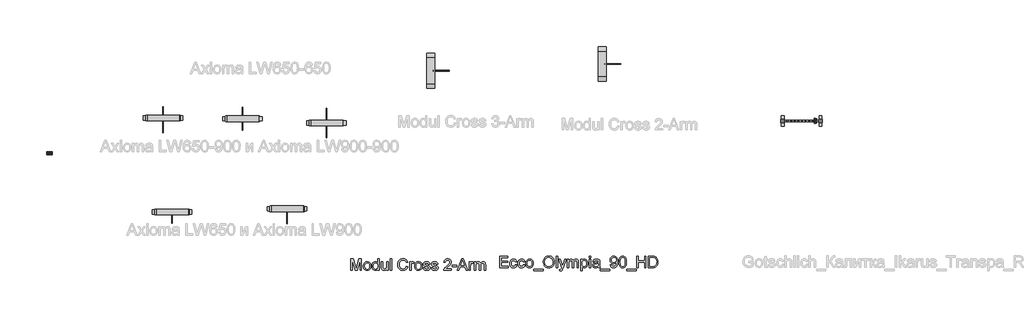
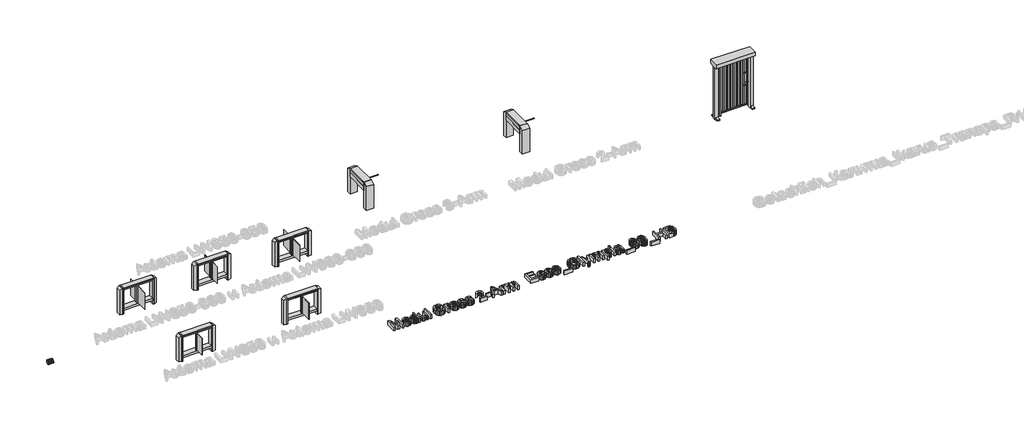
# One storey, part 1 of 6: 12 proxies.
"""IFC4 building model written with IfcOpenShell, lengths in millimetres."""

from ifc_helpers import new_model, si_unit, origin, origin_with_axes, place, context, project, spatial, polyline, outline, extrude, transform, mapped, element, save
from components import mechanical_equipment_a992aaa1, mechanical_equipment_c5705cf6, mechanical_equipment_7de76323, mechanical_equipment_c56998ff, mechanical_equipment_809e9af9, mechanical_equipment_59e46698, mechanical_equipment_12aa2fce, mechanical_equipment_f0adfb8c, modul_cross_2_arm_839a2599, modul_cross_3_arm_643bd08d

model = new_model("IFC4")

# Units and contexts
model_context = context("Model", 3, world=origin())
ifc_project = project(units=[si_unit("LENGTHUNIT", "METRE", prefix="MILLI")], contexts=[model_context])

# Site, building, storey
site = spatial("IfcSite", under=ifc_project)
building = spatial("IfcBuilding", under=site)
storey = spatial("IfcBuildingStorey", under=building, Name="Уровень 1", Elevation=0.0)

# Proxies
placement = place(None, origin())
element("IfcBuildingElementProxy", 1, Name="600 мм Arial", ObjectType="600 мм Arial", at=placement, inside=storey, context=model_context, shape_type="SweptSolid", body=[
    extrude(outline(polyline([(7507.5128013, -1022.3586758), (7507.5128013, -620.5334352), (7796.324693, -620.5334352), (7796.324693, -670.7615903), (7557.7409564, -670.7615903), (7557.7409564, -790.0534586), (7783.7676542, -790.0534586), (7783.7676542, -840.2816137), (7557.7409564, -840.2816137), (7557.7409564, -972.1305208), (7802.6032124, -972.1305208), (7802.6032124, -1022.3586758), (7507.5128013, -1022.3586758)])), origin_with_axes(), (0.0, 0.0, 1.0), 150.0),
    extrude(outline(polyline([(8060.0225071, -915.6238463), (8110.2506622, -921.9023657), (8104.7876146, -945.6031632), (8096.2466209, -966.5755026), (8084.6276812, -984.8193839), (8069.9307955, -1000.334807), (8052.7752318, -1012.7171019), (8033.7802581, -1021.5615982), (8012.9458745, -1026.868296), (7990.2720808, -1028.6371952), (7962.1015171, -1026.1693202), (7936.8433524, -1018.765695), (7914.4975869, -1006.4263198), (7895.0642205, -989.1511944), (7879.3341995, -967.2652814), (7868.0984702, -941.0935431), (7861.3570327, -910.6359796), (7859.1098868, -875.8925908), (7862.9481223, -831.1949284), (7874.4628288, -792.4569543), (7893.8379472, -761.174722), (7921.2574185, -738.8442849), (7954.0602298, -725.4533803), (7989.5853678, -720.9897454), (8011.8698196, -722.522587), (8032.0266873, -727.121112), (8050.0559707, -734.7853202), (8065.95767, -745.5152117), (8079.4620049, -759.0655319), (8090.2991953, -775.191026), (8098.4692413, -793.8916941), (8103.9721428, -815.1675361), (8053.7439877, -821.4460555), (8044.632777, -799.5325513), (8030.4447947, -783.8239902), (8011.9648558, -774.3694229), (7989.9777752, -771.2179005), (7972.9111163, -772.7691362), (7957.5183205, -777.4228434), (7943.7993878, -785.1790222), (7931.7543181, -796.0376724), (7921.9471973, -810.2501801), (7914.942111, -828.0679314), (7910.7390592, -849.4909263), (7909.3380419, -874.5191647), (7914.8194836, -921.5957973), (7921.6712858, -939.5331103), (7931.2638088, -953.736421), (7943.0697552, -964.5306919), (7956.5618273, -972.2408853), (7971.7400253, -976.8670014), (7988.6043491, -978.4090401), (8014.6136062, -974.5585419), (8035.9384992, -963.0070473), (8051.4508566, -943.4602506), (8060.0225071, -915.6238463)])), origin_with_axes(), (0.0, 0.0, 1.0), 150.0),
    extrude(outline(polyline([(8342.5558794, -915.6238463), (8392.7840345, -921.9023657), (8387.3209869, -945.6031632), (8378.7799932, -966.5755026), (8367.1610535, -984.8193839), (8352.4641678, -1000.334807), (8335.3086041, -1012.7171019), (8316.3136304, -1021.5615982), (8295.4792468, -1026.868296), (8272.8054531, -1028.6371952), (8244.6348894, -1026.1693202), (8219.3767247, -1018.765695), (8197.0309592, -1006.4263198), (8177.5975928, -989.1511944), (8161.8675718, -967.2652814), (8150.6318425, -941.0935431), (8143.890405, -910.6359796), (8141.6432591, -875.8925908), (8145.4814946, -831.1949284), (8156.9962011, -792.4569543), (8176.3713195, -761.174722), (8203.7907908, -738.8442849), (8236.5936021, -725.4533803), (8272.1187401, -720.9897454), (8294.4031919, -722.522587), (8314.5600596, -727.121112), (8332.589343, -734.7853202), (8348.4910423, -745.5152117), (8361.9953772, -759.0655319), (8372.8325676, -775.191026), (8381.0026136, -793.8916941), (8386.5055151, -815.1675361), (8336.27736, -821.4460555), (8327.1661493, -799.5325513), (8312.978167, -783.8239902), (8294.4982281, -774.3694229), (8272.5111475, -771.2179005), (8255.4444886, -772.7691362), (8240.0516928, -777.4228434), (8226.3327601, -785.1790222), (8214.2876904, -796.0376724), (8204.4805696, -810.2501801), (8197.4754833, -828.0679314), (8193.2724315, -849.4909263), (8191.8714142, -874.5191647), (8197.3528559, -921.5957973), (8204.2046581, -939.5331103), (8213.7971811, -953.736421), (8225.6031275, -964.5306919), (8239.0951996, -972.2408853), (8254.2733976, -976.8670014), (8271.1377214, -978.4090401), (8297.1469785, -974.5585419), (8318.4718715, -963.0070473), (8333.9842289, -943.4602506), (8342.5558794, -915.6238463)])), origin_with_axes(), (0.0, 0.0, 1.0), 150.0),
    extrude(outline(polyline([(8424.1766314, -874.8134703), (8426.8928268, -836.5966624), (8435.041413, -803.6650924), (8448.62239, -776.0187605), (8467.6357578, -753.6576665), (8486.7778843, -739.365451), (8507.9065735, -729.1567257), (8531.0218255, -723.0314905), (8556.1236404, -720.9897454), (8583.8343516, -723.4760145), (8608.8901812, -730.934822), (8631.291129, -743.3661677), (8651.0371951, -760.7700518), (8667.1534922, -782.557863), (8678.6651329, -808.14099), (8685.5721174, -837.519433), (8687.8744456, -870.6931919), (8683.8032181, -921.4363818), (8671.5895359, -960.0639913), (8651.5890181, -988.9917789), (8624.157284, -1010.6355029), (8591.575202, -1024.1367721), (8556.1236404, -1028.6371952), (8528.0082589, -1026.1601231), (8502.7194374, -1018.7289068), (8480.2571759, -1006.3435463), (8460.6214744, -989.0040416), (8444.6768556, -967.0046983), (8433.2878422, -940.639822), (8426.4544341, -909.9094126), (8424.1766314, -874.8134703)]), holes=[polyline([(8474.4047865, -874.7153684), (8475.8579204, -899.0783536), (8480.217322, -920.1733203), (8487.4829914, -938.0002686), (8497.6549286, -952.5591986), (8510.0280264, -963.8685043), (8523.8971776, -971.9465798), (8539.2623822, -976.793425), (8556.1236404, -978.4090401), (8572.8990593, -976.784228), (8588.2029503, -971.9097916), (8602.0353134, -963.7857308), (8614.3961484, -952.4120458), (8624.5680856, -937.7090287), (8631.833755, -919.5969718), (8636.1931566, -898.0758751), (8637.6462905, -873.1457386), (8636.1839596, -849.5553056), (8631.7969668, -829.0121619), (8624.4853121, -811.5163073), (8614.2489956, -797.067742), (8601.8421753, -785.7584363), (8588.0190093, -777.6803608), (8572.7794977, -772.8335155), (8556.1236404, -771.2179005), (8539.2623822, -772.8273842), (8523.8971776, -777.6558354), (8510.0280264, -785.703254), (8497.6549286, -796.9696401), (8487.4829914, -811.4856505), (8480.217322, -829.281942), (8475.8579204, -850.3585147), (8474.4047865, -874.7153684)])]), origin_with_axes(), (0.0, 0.0, 1.0), 150.0),
    extrude(outline(polyline([(8700.4314843, -1135.3720247), (8700.4314843, -1085.1438697), (9026.9144923, -1085.1438697), (9026.9144923, -1135.3720247), (8700.4314843, -1135.3720247)])), origin_with_axes(), (0.0, 0.0, 1.0), 150.0),
    extrude(outline(polyline([(9039.4715311, -826.7435563), (9042.8192572, -779.6117413), (9052.8624357, -737.8877917), (9069.6010665, -701.5717074), (9093.0351496, -670.6634884), (9121.760602, -645.9847379), (9154.3733409, -628.357059), (9190.8733662, -617.7804516), (9231.2606779, -614.2549158), (9258.2938732, -615.9103848), (9283.9659051, -620.8767918), (9308.2767736, -629.1541366), (9331.2264787, -640.7424195), (9352.171227, -655.2921524), (9370.4672249, -672.4538475), (9386.1144724, -692.2275047), (9399.1129696, -714.6131241), (9409.3278263, -739.1018023), (9416.6241525, -765.1846357), (9422.4612135, -822.1327686), (9420.9253062, -851.7901888), (9416.3175842, -879.8411909), (9408.6380476, -906.285775), (9397.8866963, -931.123941), (9384.317982, -953.6996328), (9368.1863565, -973.3567941), (9349.4918198, -990.0954248), (9328.2343718, -1003.9155251), (9305.2509442, -1014.7312558), (9281.3784684, -1022.4567777), (9256.6169444, -1027.0920908), (9230.9663723, -1028.6371952), (9203.4610618, -1026.9296096), (9177.4518047, -1021.8068528), (9152.9386011, -1013.2689249), (9129.921451, -1001.3158257), (9109.0012282, -986.4104735), (9090.7788067, -969.0157865), (9075.2541865, -949.1317647), (9062.4273676, -926.758408), (9045.2104902, -878.136671), (9039.4715311, -826.7435563)]), holes=[polyline([(9089.6996862, -827.2340656), (9092.2104808, -860.5335175), (9099.7428646, -890.0928358), (9112.2968377, -915.9120205), (9129.8724, -937.9910716), (9151.2371469, -955.6739328), (9175.1586736, -968.304548), (9201.6369802, -975.8829171), (9230.6720667, -978.4090401), (9260.2037939, -975.8583916), (9286.9948002, -968.2064461), (9311.0450856, -955.4532036), (9332.3546502, -937.5986641), (9349.8014538, -915.0536292), (9362.2634564, -888.2289004), (9369.7406579, -857.1244777), (9372.2330585, -821.7403611), (9367.9656273, -777.2756906), (9355.1633339, -738.8442849), (9334.157272, -707.4148998), (9305.2785353, -683.9562912), (9270.4401104, -669.351376), (9231.5549835, -664.4830709), (9203.5285068, -666.8283186), (9177.5253811, -673.8640618), (9153.5456064, -685.5903004), (9131.5891827, -702.0070344), (9113.2625279, -723.9052102), (9100.1720603, -752.075774), (9092.3177797, -786.5187258), (9089.6996862, -827.2340656)])]), origin_with_axes(), (0.0, 0.0, 1.0), 150.0),
    extrude(outline(polyline([(9485.2464074, -1022.3586758), (9485.2464074, -620.5334352), (9535.4745624, -620.5334352), (9535.4745624, -1022.3586758), (9485.2464074, -1022.3586758)])), origin_with_axes(), (0.0, 0.0, 1.0), 150.0),
    extrude(outline(polyline([(9610.8167951, -1135.3720247), (9604.5382757, -1087.0078051), (9630.0447607, -1091.4223891), (9643.4601908, -1090.0367002), (9653.883514, -1085.8796337), (9668.5006919, -1070.4285899), (9682.2349531, -1033.4441866), (9686.1590277, -1021.2795553), (9579.4241981, -727.2682648), (9632.3992054, -727.2682648), (9689.0039818, -891.0983799), (9708.7224567, -956.630426), (9728.4409317, -898.7503254), (9786.6153378, -727.2682648), (9839.1979377, -727.2682648), (9736.4852846, -1029.4220101), (9709.8015772, -1094.9540562), (9696.1408925, -1115.874279), (9680.6653232, -1130.3688296), (9662.6881564, -1138.8301155), (9641.5226789, -1141.6505441), (9610.8167951, -1135.3720247)])), origin_with_axes(), (0.0, 0.0, 1.0), 150.0),
    extrude(outline(polyline([(9880.7931286, -1022.3586758), (9880.7931286, -727.2682648), (9931.0212837, -727.2682648), (9931.0212837, -775.8286881), (9946.1289709, -753.5227765), (9965.5531403, -736.0483817), (9988.6316041, -724.7544045), (10014.7021748, -720.9897454), (10042.636681, -724.8279809), (10065.0284318, -736.3426873), (10081.7547998, -754.7735753), (10092.6931578, -779.3603553), (10111.0014184, -753.8232134), (10131.884853, -735.5823979), (10155.3434616, -724.6379085), (10181.3772441, -720.9897454), (10201.4850608, -722.5072586), (10219.1341996, -727.0597983), (10234.3246603, -734.6473644), (10247.056443, -745.2699571), (10257.1210812, -759.0502035), (10264.3101086, -776.110731), (10268.623525, -796.4515396), (10270.0613304, -820.0726294), (10270.0613304, -1022.3586758), (10219.8331753, -1022.3586758), (10219.8331753, -841.6550398), (10218.6682157, -816.6022759), (10215.1733367, -799.7164923), (10208.6250372, -788.152735), (10198.2998159, -779.0660497), (10185.0192759, -773.1799378), (10169.6050203, -771.2179005), (10142.3940154, -776.2456211), (10120.210731, -791.3287829), (10111.605358, -802.8986716), (10105.458663, -817.4974554), (10100.541307, -855.7817084), (10100.541307, -1022.3586758), (10050.313152, -1022.3586758), (10050.313152, -836.0632335), (10047.4068842, -807.6627434), (10038.6880809, -787.4047082), (10023.3474017, -775.2646024), (10000.5755062, -771.2179005), (9981.2249133, -773.9157017), (9963.3948992, -782.0091056), (9948.6796194, -795.3019084), (9938.6732292, -813.5979063), (9932.93427, -838.981764), (9931.0212837, -873.538146), (9931.0212837, -1022.3586758), (9880.7931286, -1022.3586758)])), origin_with_axes(), (0.0, 0.0, 1.0), 150.0),
    extrude(outline(polyline([(10345.403563, -1135.3720247), (10345.403563, -727.2682648), (10395.6317181, -727.2682648), (10395.6317181, -776.5154012), (10412.0147296, -752.2229268), (10430.3597784, -734.8711593), (10451.7459851, -724.4600989), (10477.2524701, -720.9897454), (10511.220241, -725.8457877), (10540.9205807, -740.4139147), (10565.1026905, -763.8112096), (10582.5157717, -795.1547556), (10593.0371967, -832.1636843), (10596.5443384, -872.5571274), (10592.5834756, -915.5134817), (10580.7008871, -953.9326247), (10561.2767178, -985.8647819), (10534.6911123, -1009.3601787), (10503.727711, -1023.8179411), (10471.1701544, -1028.6371952), (10448.0794279, -1025.4120964), (10427.4657734, -1015.7367999), (10409.8197004, -1001.1318847), (10395.6317181, -983.1179297), (10395.6317181, -1135.3720247), (10345.403563, -1135.3720247)]), holes=[polyline([(10395.6317181, -877.1679151), (10401.0641089, -922.1966713), (10407.8545974, -939.6342778), (10417.3612813, -953.6873701), (10441.408501, -972.2286226), (10455.1703533, -976.8639358), (10470.0910339, -978.4090401), (10485.2263123, -976.8087535), (10499.2395507, -972.0078934), (10512.1307489, -964.00646), (10523.8999071, -952.8044533), (10533.7070279, -938.2424576), (10540.7121143, -920.1610576), (10544.9151661, -898.5602531), (10546.3161833, -873.4400442), (10540.8470043, -828.6565426), (10534.0105306, -811.084046), (10524.4394673, -796.7243855), (10500.4290358, -777.5945217), (10486.8235333, -772.8120558), (10472.1511731, -771.2179005), (10457.5247981, -772.9132233), (10443.7629458, -777.9991919), (10418.8328093, -798.3430662), (10408.6823319, -813.4415564), (10401.4319909, -831.6118613), (10397.0817863, -852.8539809), (10395.6317181, -877.1679151)])]), origin_with_axes(), (0.0, 0.0, 1.0), 150.0),
    extrude(outline(polyline([(10653.0510129, -670.7615903), (10653.0510129, -620.5334352), (10703.2791679, -620.5334352), (10703.2791679, -670.7615903), (10653.0510129, -670.7615903)])), origin_with_axes(), (0.0, 0.0, 1.0), 150.0),
    extrude(outline(polyline([(10653.0510129, -1022.3586758), (10653.0510129, -727.2682648), (10703.2791679, -727.2682648), (10703.2791679, -1022.3586758), (10653.0510129, -1022.3586758)])), origin_with_axes(), (0.0, 0.0, 1.0), 150.0),
    extrude(outline(polyline([(10966.9769821, -984.6875595), (10942.9788133, -1005.2644258), (10918.2694059, -1018.7289068), (10892.2846743, -1026.1601231), (10864.4605328, -1028.6371952), (10842.0963731, -1027.1472731), (10822.4851971, -1022.6775069), (10805.6270047, -1015.2278965), (10791.5217958, -1004.7984419), (10780.3841684, -992.0513308), (10772.4287203, -977.6487507), (10767.6554514, -961.5907016), (10766.0643618, -943.8771835), (10768.4678575, -923.0550626), (10775.6783446, -904.145928), (10786.8006436, -887.9591203), (10800.9395749, -875.3039796), (10817.5555784, -865.7390477), (10836.1090937, -858.8228662), (10879.56822, -851.2690226), (10930.9245466, -843.3227715), (10966.6826765, -834.0030943), (10966.9769821, -822.8194816), (10963.5188913, -800.4032054), (10953.1446191, -785.7369765), (10929.9435279, -774.8476695), (10897.6189633, -771.2179005), (10867.6978943, -773.6336589), (10846.802197, -780.8809342), (10832.552901, -794.2841015), (10822.5710362, -815.1675361), (10772.3428812, -808.8890168), (10781.0616844, -781.4204945), (10794.0724443, -759.8380841), (10812.5891714, -743.3324452), (10837.8258763, -731.0942375), (10868.6911757, -723.5158684), (10904.0936864, -720.9897454), (10938.0491945, -723.2215628), (10964.9658938, -729.9170151), (10985.2607172, -739.9847191), (10999.3505977, -752.3332914), (11008.6948003, -767.6003942), (11014.7525905, -786.4236896), (11017.2051372, -830.3733253), (11017.2051372, -892.8642135), (11019.7557857, -980.1258228), (11029.7621759, -1022.3586758), (10979.5340208, -1022.3586758), (10971.4896679, -1004.8965438), (10966.9769821, -984.6875595)]), holes=[polyline([(10966.9769821, -884.2312494), (10933.2299404, -892.5944334), (10885.9448413, -899.6332422), (10842.7309696, -907.7756971), (10831.4860433, -913.3429779), (10823.1596474, -921.0194489), (10818.0092995, -930.2164988), (10816.2925169, -940.3455164), (10820.0326505, -955.2815254), (10831.2530513, -967.5197331), (10849.7084647, -975.6867134), (10875.1536361, -978.4090401), (10902.1316491, -975.4046705), (10925.9704023, -966.3915616), (10945.2964698, -953.1110216), (10958.7364254, -937.3043585), (10964.6961137, -921.0194489), (10966.6826765, -898.4560199), (10966.9769821, -884.2312494)])]), origin_with_axes(), (0.0, 0.0, 1.0), 150.0),
    extrude(outline(polyline([(11042.3192147, -1135.3720247), (11042.3192147, -1085.1438697), (11368.8022227, -1085.1438697), (11368.8022227, -1135.3720247), (11042.3192147, -1135.3720247)])), origin_with_axes(), (0.0, 0.0, 1.0), 150.0),
    extrude(outline(polyline([(11387.6377808, -921.9023657), (11437.8659359, -915.6238463), (11446.4498491, -944.1347009), (11460.4293649, -963.5466075), (11479.4611268, -974.693432), (11503.2017782, -978.4090401), (11524.5021458, -976.0178072), (11543.8650014, -968.8441083), (11559.9537074, -957.6727583), (11571.4316256, -943.2885723), (11587.8636881, -899.6332422), (11593.3083416, -871.2327522), (11595.1232261, -841.3607342), (11594.8289205, -831.5505477), (11577.4281021, -852.7896015), (11554.6562066, -869.6140714), (11528.1564403, -880.5769549), (11499.5720092, -884.2312494), (11475.7117962, -881.9994319), (11453.7707008, -875.3039796), (11433.7487232, -864.1448924), (11415.6458634, -848.5221704), (11400.645475, -829.2512852), (11389.9309119, -807.1477086), (11383.5021741, -782.2114407), (11381.3592614, -754.4424815), (11383.6064073, -725.7476858), (11390.3478449, -699.9959462), (11401.5835741, -677.1872625), (11417.3135951, -657.3216347), (11436.4281304, -641.2267975), (11457.8174028, -629.7304851), (11481.4814121, -622.8326977), (11507.4201585, -620.5334352), (11544.8828083, -625.781885), (11578.9854693, -641.5272344), (11607.5085866, -666.9846685), (11628.2326057, -701.3693723), (11640.8509581, -748.8997261), (11645.0570756, -813.79411), (11640.8632208, -882.6003059), (11628.2816566, -935.7837796), (11607.4227475, -975.748027), (11593.9306753, -991.6742517), (11578.3968581, -1004.8965438), (11561.1339954, -1015.2830788), (11542.4547871, -1022.7020324), (11500.8473335, -1028.6371952), (11478.2900358, -1026.8866901), (11457.9032419, -1021.6351746), (11439.6869518, -1012.8826488), (11423.6411654, -1000.6291126), (11410.170553, -985.20566), (11399.6797848, -966.9433846), (11392.1688607, -945.8422865), (11387.6377808, -921.9023657)]), holes=[polyline([(11594.8289205, -753.2652591), (11589.4087925, -719.2239118), (11582.6336324, -705.1462941), (11573.1484083, -693.0307137), (11561.419104, -683.2879722), (11547.9117034, -676.3288712), (11515.5626133, -670.7615903), (11497.9533285, -672.2607094), (11482.0117753, -676.7580668), (11467.7379539, -684.2536625), (11455.1318642, -694.7474964), (11444.8311683, -707.6264319), (11437.4735284, -722.2773324), (11433.0589445, -738.7001978), (11431.5874165, -756.8950281), (11437.1546974, -787.9320058), (11444.1137985, -801.0500646), (11453.85654, -812.5678367), (11465.9782517, -821.9457619), (11480.0742635, -828.6442799), (11514.1891872, -834.0030943), (11546.2807599, -828.6442799), (11572.1183387, -812.5678367), (11582.0542182, -800.823204), (11589.1512751, -787.0245635), (11594.8289205, -753.2652591)])]), origin_with_axes(), (0.0, 0.0, 1.0), 150.0),
    extrude(outline(polyline([(11689.0067113, -824.6834171), (11692.697794, -760.3653816), (11703.771042, -709.0703687), (11722.1160908, -670.0135636), (11733.9741538, -654.7801833), (11747.6225758, -642.4101512), (11763.1073422, -632.839088), (11780.474438, -626.0026142), (11820.8556184, -620.5334352), (11851.8067569, -623.7707968), (11879.5205338, -633.4828815), (11902.6970995, -649.2895445), (11920.0366043, -670.8106412), (11933.1332033, -697.8622306), (11943.5810519, -730.2603717), (11950.4236571, -771.4018414), (11952.7045254, -824.6834171), (11949.0502309, -888.6335706), (11938.0873475, -939.8059561), (11919.8526633, -978.8995495), (11908.0221914, -994.178915), (11894.3829665, -1006.6133264), (11878.879806, -1016.248769), (11861.4575279, -1023.131228), (11820.8556184, -1028.6371952), (11793.1908923, -1026.2459622), (11768.665426, -1019.0722633), (11747.2792193, -1007.1160985), (11729.0322724, -990.3774677), (11711.5210894, -960.1191736), (11699.0131015, -922.4174005), (11691.5083088, -877.2721483), (11689.0067113, -824.6834171)]), holes=[polyline([(11739.2348664, -824.5853152), (11740.7063943, -868.2498424), (11745.1209783, -903.594105), (11752.4786182, -930.6181033), (11762.779314, -949.3218371), (11775.2382509, -962.0474884), (11789.070614, -971.1372394), (11804.2764031, -976.5910899), (11820.8556184, -978.4090401), (11837.4348336, -976.5849586), (11852.6406227, -971.1127139), (11866.4729858, -961.9923061), (11878.9319227, -949.2237352), (11889.2326185, -930.4893446), (11896.5902584, -903.4714777), (11901.0048424, -868.1701346), (11902.4763703, -824.5853152), (11901.0538933, -782.0765507), (11896.7864622, -747.3546217), (11889.6740769, -720.4195283), (11879.7167376, -701.2712704), (11867.4662671, -687.9232854), (11853.4744886, -678.3890103), (11837.7414019, -672.6684453), (11820.2670072, -670.7615903), (11803.773631, -672.4415847), (11788.8253593, -677.4815681), (11775.4221919, -685.8815403), (11763.564129, -697.6415014), (11752.9200766, -718.4881478), (11745.317182, -746.5943322), (11740.7554453, -781.9600547), (11739.2348664, -824.5853152)])]), origin_with_axes(), (0.0, 0.0, 1.0), 150.0),
    extrude(outline(polyline([(11965.2615642, -1135.3720247), (11965.2615642, -1085.1438697), (12291.7445722, -1085.1438697), (12291.7445722, -1135.3720247), (11965.2615642, -1135.3720247)])), origin_with_axes(), (0.0, 0.0, 1.0), 150.0),
    extrude(outline(polyline([(12323.1371691, -1022.3586758), (12323.1371691, -620.5334352), (12373.3653242, -620.5334352), (12373.3653242, -783.7749392), (12586.8349832, -783.7749392), (12586.8349832, -620.5334352), (12637.0631383, -620.5334352), (12637.0631383, -1022.3586758), (12586.8349832, -1022.3586758), (12586.8349832, -834.0030943), (12373.3653242, -834.0030943), (12373.3653242, -1022.3586758), (12323.1371691, -1022.3586758)])), origin_with_axes(), (0.0, 0.0, 1.0), 150.0),
    extrude(outline(polyline([(12724.9624097, -1022.3586758), (12724.9624097, -620.5334352), (12863.5803455, -620.5334352), (12905.0038581, -621.9804377), (12935.2928091, -626.3214453), (12967.3230681, -637.4805325), (12994.350132, -655.0652918), (13022.1374854, -685.6730738), (13041.9295367, -723.7365976), (13053.775337, -768.5200992), (13057.7239371, -819.2878145), (13055.0506612, -862.4158471), (13047.0308337, -900.3690062), (13034.8171515, -932.6813081), (13019.5623114, -958.8867689), (13002.0020775, -979.5739998), (12982.8722138, -995.3316119), (12960.9096587, -1007.0179966), (12934.8513507, -1015.4915452), (12904.6482389, -1020.6418932), (12870.2512723, -1022.3586758), (12724.9624097, -1022.3586758)]), holes=[polyline([(12775.1905648, -972.1305208), (12864.0708548, -972.1305208), (12900.8345289, -970.3156362), (12928.7199841, -964.8709827), (12949.7628342, -956.1153912), (12965.9986929, -944.3676928), (12983.4485622, -922.6258669), (12996.557424, -894.4828943), (13004.7611925, -859.8161476), (13007.495782, -818.5029996), (13002.1369676, -763.7621587), (12995.4384496, -741.7628154), (12986.0605244, -723.3441901), (12962.3076103, -695.5813622), (12933.919383, -678.8059433), (12905.0283836, -672.7726785), (12862.6974287, -670.7615903), (12775.1905648, -670.7615903), (12775.1905648, -972.1305208)])]), origin_with_axes(), (0.0, 0.0, 1.0), 150.0),
])
element("IfcBuildingElementProxy", 2, Name="600 мм Arial", ObjectType="600 мм Arial", at=placement, inside=storey, context=model_context, shape_type="SweptSolid", body=[
    extrude(outline(polyline([(2288.7167583, -1115.0438908), (2288.7167583, -713.2186502), (2375.1445017, -713.2186502), (2457.3538649, -996.4387356), (2473.9330802, -1055.5941604), (2491.8857215, -991.5336423), (2572.7216586, -713.2186502), (2659.149402, -713.2186502), (2659.149402, -1115.0438908), (2608.9212469, -1115.0438908), (2608.9212469, -763.4468053), (2507.9744275, -1115.0438908), (2439.8917329, -1115.0438908), (2338.9449134, -763.4468053), (2338.9449134, -1115.0438908), (2288.7167583, -1115.0438908)])), origin_with_axes(), (0.0, 0.0, 1.0), 150.0),
    extrude(outline(polyline([(2728.2131152, -967.4986853), (2730.9293106, -929.2818774), (2739.0778968, -896.3503074), (2752.6588738, -868.7039755), (2771.6722416, -846.3428816), (2790.8143681, -832.0506661), (2811.9430573, -821.8419407), (2835.0583094, -815.7167055), (2860.1601242, -813.6749604), (2887.8708355, -816.1612295), (2912.926665, -823.620037), (2935.3276128, -836.0513828), (2955.0736789, -853.4552668), (2971.189976, -875.243078), (2982.7016168, -900.8262051), (2989.6086012, -930.2046481), (2991.9109294, -963.378407), (2987.839702, -1014.1215968), (2975.6260197, -1052.7492063), (2955.6255019, -1081.6769939), (2928.1937678, -1103.3207179), (2895.6116858, -1116.8219872), (2860.1601242, -1121.3224102), (2832.0447427, -1118.8453381), (2806.7559212, -1111.4141218), (2784.2936597, -1099.0287613), (2764.6579582, -1081.6892566), (2748.7133394, -1059.6899133), (2737.324326, -1033.325037), (2730.4909179, -1002.5946277), (2728.2131152, -967.4986853)]), holes=[polyline([(2778.4412703, -967.4005834), (2779.8944042, -991.7635686), (2784.2538058, -1012.8585353), (2791.5194752, -1030.6854837), (2801.6914124, -1045.2444136), (2814.0645102, -1056.5537193), (2827.9336614, -1064.6317948), (2843.2988661, -1069.4786401), (2860.1601242, -1071.0942552), (2876.9355432, -1069.469443), (2892.2394342, -1064.5950066), (2906.0717972, -1056.4709458), (2918.4326322, -1045.0972608), (2928.6045694, -1030.3942438), (2935.8702388, -1012.2821869), (2940.2296404, -990.7610901), (2941.6827743, -965.8309536), (2940.2204434, -942.2405207), (2935.8334506, -921.6973769), (2928.5217959, -904.2015224), (2918.2854794, -889.752957), (2905.8786591, -878.4436513), (2892.0554932, -870.3655759), (2876.8159815, -865.5187306), (2860.1601242, -863.9031155), (2843.2988661, -865.5125992), (2827.9336614, -870.3410504), (2814.0645102, -878.388469), (2801.6914124, -889.6548551), (2791.5194752, -904.1708655), (2784.2538058, -921.967157), (2779.8944042, -943.0437297), (2778.4412703, -967.4005834)])]), origin_with_axes(), (0.0, 0.0, 1.0), 150.0),
    extrude(outline(polyline([(3230.494666, -1115.0438908), (3230.494666, -1067.6606899), (3215.4666865, -1091.1376925), (3197.2626591, -1107.9069801), (3175.8825838, -1117.9685527), (3151.3264606, -1121.3224102), (3118.8547432, -1116.4663679), (3089.129878, -1101.8982409), (3063.9667495, -1078.6358361), (3045.1802423, -1047.6969603), (3033.4815948, -1010.3324123), (3029.5820457, -967.7929909), (3033.1750265, -925.7808671), (3043.953969, -887.8399706), (3061.9066103, -856.1285426), (3087.0206879, -832.8048241), (3117.3954779, -818.4574263), (3151.1302569, -813.6749604), (3175.7047742, -817.096263), (3197.4343374, -827.3601706), (3215.8529626, -843.0932573), (3230.494666, -862.9220968), (3230.494666, -713.2186502), (3280.7228211, -713.2186502), (3280.7228211, -1115.0438908), (3230.494666, -1115.0438908)]), holes=[polyline([(3079.8102008, -967.5967872), (3081.2265464, -991.9536409), (3085.4755835, -1013.0302136), (3092.5573119, -1030.8265051), (3102.4717317, -1045.3425155), (3127.1688763, -1064.6563202), (3141.0441589, -1069.4847714), (3155.9372483, -1071.0942552), (3170.9008485, -1069.5583478), (3184.6933576, -1064.9506258), (3208.7651028, -1046.5197379), (3218.2717867, -1032.6107328), (3225.0622752, -1015.4582347), (3230.494666, -971.4227599), (3224.9641733, -923.2792695), (3218.0510575, -904.7441483), (3208.3726953, -889.9001098), (3196.6709822, -878.5264248), (3183.6878135, -870.4023641), (3169.4231891, -865.5279276), (3153.8771091, -863.9031155), (3138.6897141, -865.4635483), (3124.8144315, -870.1448467), (3112.2512614, -877.9470106), (3101.0002037, -888.8700402), (3091.7295774, -903.1530587), (3085.1077015, -921.0351893), (3079.8102008, -967.5967872)])]), origin_with_axes(), (0.0, 0.0, 1.0), 150.0),
    extrude(outline(polyline([(3544.4206352, -1115.0438908), (3544.4206352, -1064.3252264), (3526.2472646, -1089.2614943), (3505.0817872, -1107.0731143), (3480.9242028, -1117.7600862), (3453.7745116, -1121.3224102), (3429.3103589, -1118.8208127), (3406.5384634, -1111.31602), (3387.4331251, -1100.0343054), (3373.9686441, -1086.2019424), (3364.9064843, -1069.401998), (3359.0081096, -1049.2175392), (3356.0650537, -1002.5210513), (3356.0650537, -819.9534798), (3406.2932088, -819.9534798), (3406.2932088, -978.8785017), (3409.3343666, -1030.0876754), (3416.6552183, -1047.1696627), (3429.1999943, -1060.1558972), (3446.1348288, -1068.3596657), (3466.625856, -1071.0942552), (3488.2941055, -1068.298352), (3508.5644034, -1059.9106425), (3525.2785087, -1046.7036789), (3536.2781804, -1029.4500133), (3542.3850215, -1005.8197265), (3544.4206352, -973.4828991), (3544.4206352, -819.9534798), (3594.6487903, -819.9534798), (3594.6487903, -1115.0438908), (3544.4206352, -1115.0438908)])), origin_with_axes(), (0.0, 0.0, 1.0), 150.0),
    extrude(outline(polyline([(3663.7125035, -1115.0438908), (3663.7125035, -713.2186502), (3713.9406586, -713.2186502), (3713.9406586, -1115.0438908), (3663.7125035, -1115.0438908)])), origin_with_axes(), (0.0, 0.0, 1.0), 150.0),
    extrude(outline(polyline([(4235.0577675, -972.2075749), (4285.2859226, -985.1570211), (4275.3469773, -1016.3932682), (4262.1093569, -1043.6870465), (4245.5730612, -1067.0383562), (4225.7380903, -1086.4471971), (4203.0520339, -1101.7051028), (4177.9624818, -1112.6036069), (4150.4694341, -1119.1427094), (4120.5728906, -1121.3224102), (4089.9436488, -1119.6730726), (4062.3126453, -1114.7250598), (4037.67988, -1106.4783717), (4016.045353, -1094.9330084), (3997.111693, -1080.2606482), (3980.5815287, -1062.6329693), (3966.4548601, -1042.0499716), (3954.7316872, -1018.5116553), (3938.9495496, -966.640294), (3933.688837, -911.0901127), (3939.6362626, -852.4987736), (3947.0705446, -826.2013423), (3957.4785394, -801.9027365), (3970.627255, -780.0045608), (3986.2836996, -760.9084196), (4004.4478731, -744.6143129), (4025.1197756, -731.1222407), (4047.5973655, -720.5425676), (4071.1786014, -712.9856583), (4121.6520111, -706.9401309), (4150.3805292, -708.8960368), (4176.7239458, -714.7637546), (4200.6822607, -724.5432843), (4222.2554741, -738.2346259), (4241.0879665, -755.4760288), (4256.8241189, -775.9057422), (4269.4639311, -799.5237663), (4279.0074032, -826.330101), (4228.7792481, -838.2985286), (4211.366167, -801.6697446), (4187.5764646, -776.5434043), (4157.1158354, -762.0120655), (4119.6899738, -757.1682859), (4076.5496785, -762.5393631), (4057.8674045, -769.2532095), (4041.1103796, -778.6525945), (4014.2182058, -803.8157229), (3996.7192855, -836.3364913), (3987.1175655, -873.1001653), (3983.9169921, -910.9920109), (3987.7061767, -957.3941932), (3999.0737303, -997.5178561), (4018.4488487, -1029.830158), (4046.2607276, -1052.7982573), (4079.6030991, -1066.5202557), (4115.5696955, -1071.0942552), (4137.4065575, -1069.536888), (4157.4959802, -1064.8647867), (4175.8379633, -1057.0779511), (4192.432507, -1046.1763813), (4206.8872037, -1032.2091283), (4218.809646, -1015.2252428), (4228.199834, -995.224725), (4235.0577675, -972.2075749)])), origin_with_axes(), (0.0, 0.0, 1.0), 150.0),
    extrude(outline(polyline([(4348.0711164, -1115.0438908), (4348.0711164, -819.9534798), (4392.0207521, -819.9534798), (4392.0207521, -863.6088099), (4408.2566108, -838.2985286), (4423.2171453, -823.3870451), (4438.2267307, -816.1029816), (4454.6097422, -813.6749604), (4479.6257179, -817.5499841), (4505.034101, -829.1750551), (4488.258682, -874.2038113), (4470.6003463, -866.4782894), (4452.9420105, -863.9031155), (4437.9446878, -866.3801876), (4424.5415205, -873.8114039), (4413.7135271, -885.6326787), (4406.4417263, -901.2799262), (4400.3348852, -929.3370597), (4398.2992715, -959.9448417), (4398.2992715, -1115.0438908), (4348.0711164, -1115.0438908)])), origin_with_axes(), (0.0, 0.0, 1.0), 150.0),
    extrude(outline(polyline([(4523.8696592, -967.4986853), (4526.5858546, -929.2818774), (4534.7344408, -896.3503074), (4548.3154177, -868.7039755), (4567.3287855, -846.3428816), (4586.470912, -832.0506661), (4607.5996013, -821.8419407), (4630.7148533, -815.7167055), (4655.8166681, -813.6749604), (4683.5273794, -816.1612295), (4708.5832089, -823.620037), (4730.9841568, -836.0513828), (4750.7302229, -853.4552668), (4766.8465199, -875.243078), (4778.3581607, -900.8262051), (4785.2651452, -930.2046481), (4787.5674733, -963.378407), (4783.4962459, -1014.1215968), (4771.2825637, -1052.7492063), (4751.2820459, -1081.6769939), (4723.8503117, -1103.3207179), (4691.2682297, -1116.8219872), (4655.8166681, -1121.3224102), (4627.7012866, -1118.8453381), (4602.4124651, -1111.4141218), (4579.9502036, -1099.0287613), (4560.3145022, -1081.6892566), (4544.3698833, -1059.6899133), (4532.9808699, -1033.325037), (4526.1474619, -1002.5946277), (4523.8696592, -967.4986853)]), holes=[polyline([(4574.0978142, -967.4005834), (4575.5509481, -991.7635686), (4579.9103498, -1012.8585353), (4587.1760192, -1030.6854837), (4597.3479563, -1045.2444136), (4609.7210541, -1056.5537193), (4623.5902053, -1064.6317948), (4638.95541, -1069.4786401), (4655.8166681, -1071.0942552), (4672.5920871, -1069.469443), (4687.8959781, -1064.5950066), (4701.7283411, -1056.4709458), (4714.0891761, -1045.0972608), (4724.2611133, -1030.3942438), (4731.5267827, -1012.2821869), (4735.8861844, -990.7610901), (4737.3393182, -965.8309536), (4735.8769873, -942.2405207), (4731.4899945, -921.6973769), (4724.1783399, -904.2015224), (4713.9420233, -889.752957), (4701.5352031, -878.4436513), (4687.7120371, -870.3655759), (4672.4725254, -865.5187306), (4655.8166681, -863.9031155), (4638.95541, -865.5125992), (4623.5902053, -870.3410504), (4609.7210541, -878.388469), (4597.3479563, -889.6548551), (4587.1760192, -904.1708655), (4579.9103498, -921.967157), (4575.5509481, -943.0437297), (4574.0978142, -967.4005834)])]), origin_with_axes(), (0.0, 0.0, 1.0), 150.0),
    extrude(outline(polyline([(4825.2385896, -1027.1446195), (4875.4667447, -1020.8661001), (4883.3884703, -1042.3504086), (4898.7168868, -1058.1448089), (4921.550096, -1067.8568936), (4951.9861997, -1071.0942552), (4982.0544214, -1068.1266737), (5003.1953734, -1059.2239294), (5015.7033613, -1046.3235341), (5019.8726905, -1031.3629997), (5015.6788358, -1018.5607062), (5003.0972715, -1008.7995706), (4951.3975885, -994.4766983), (4875.7610503, -969.902181), (4856.6189238, -957.5536087), (4842.7497726, -941.2073854), (4834.3252749, -921.9058434), (4831.517109, -900.691315), (4833.7734519, -881.2303574), (4840.5424806, -863.2654533), (4851.2110585, -847.5078412), (4865.1660488, -834.6687596), (4897.098206, -819.806327), (4917.9816406, -815.207802), (4940.3120777, -813.6749604), (4973.0045243, -816.1397698), (5001.4295398, -823.5341979), (5024.2872745, -835.1347434), (5040.2778785, -850.2179052), (5050.87288, -869.899592), (5057.5438068, -895.2957124), (5007.3156518, -901.5742318), (5000.9758187, -885.7675687), (4988.4310427, -873.8604548), (4969.5586963, -866.3924503), (4944.2361523, -863.9031155), (4915.3942039, -866.2820857), (4896.1662383, -873.4189964), (4885.3505076, -883.7196923), (4881.7452641, -895.590018), (4887.7294779, -910.2071959), (4906.4669341, -921.2927067), (4949.7298568, -931.98581), (5023.4534086, -955.6283596), (5042.9266289, -966.9345996), (5057.6909596, -982.4101688), (5066.9983741, -1002.1041183), (5070.1008456, -1026.0654989), (5066.4588139, -1050.83622), (5055.5327186, -1074.135413), (5037.7394928, -1094.1359308), (5013.4960693, -1109.0106261), (4984.2126625, -1118.2444642), (4951.2994866, -1121.3224102), (4924.2662913, -1119.8386195), (4900.6543986, -1115.3872474), (4880.4638085, -1107.9682938), (4863.6945208, -1097.5817588), (4849.9970479, -1084.2766933), (4839.0219017, -1068.1021483), (4830.7690823, -1049.0581236), (4825.2385896, -1027.1446195)])), origin_with_axes(), (0.0, 0.0, 1.0), 150.0),
    extrude(outline(polyline([(5107.7719619, -1027.1446195), (5158.000117, -1020.8661001), (5165.9218426, -1042.3504086), (5181.2502591, -1058.1448089), (5204.0834682, -1067.8568936), (5234.519572, -1071.0942552), (5264.5877937, -1068.1266737), (5285.7287457, -1059.2239294), (5298.2367335, -1046.3235341), (5302.4060628, -1031.3629997), (5298.2122081, -1018.5607062), (5285.6306438, -1008.7995706), (5233.9309608, -994.4766983), (5158.2944226, -969.902181), (5139.1522961, -957.5536087), (5125.2831449, -941.2073854), (5116.8586472, -921.9058434), (5114.0504813, -900.691315), (5116.3068242, -881.2303574), (5123.0758529, -863.2654533), (5133.7444308, -847.5078412), (5147.6994211, -834.6687596), (5179.6315783, -819.806327), (5200.5150129, -815.207802), (5222.84545, -813.6749604), (5255.5378966, -816.1397698), (5283.9629121, -823.5341979), (5306.8206468, -835.1347434), (5322.8112508, -850.2179052), (5333.4062523, -869.899592), (5340.0771791, -895.2957124), (5289.8490241, -901.5742318), (5283.509191, -885.7675687), (5270.964415, -873.8604548), (5252.0920686, -866.3924503), (5226.7695246, -863.9031155), (5197.9275762, -866.2820857), (5178.6996106, -873.4189964), (5167.8838799, -883.7196923), (5164.2786364, -895.590018), (5170.2628502, -910.2071959), (5189.0003064, -921.2927067), (5232.2632291, -931.98581), (5305.9867809, -955.6283596), (5325.4600012, -966.9345996), (5340.2243319, -982.4101688), (5349.5317464, -1002.1041183), (5352.6342179, -1026.0654989), (5348.9921861, -1050.83622), (5338.0660909, -1074.135413), (5320.2728651, -1094.1359308), (5296.0294416, -1109.0106261), (5266.7460348, -1118.2444642), (5233.8328589, -1121.3224102), (5206.7996636, -1119.8386195), (5183.1877709, -1115.3872474), (5162.9971808, -1107.9682938), (5146.2278931, -1097.5817588), (5132.5304202, -1084.2766933), (5121.555274, -1068.1021483), (5113.3024546, -1049.0581236), (5107.7719619, -1027.1446195)])), origin_with_axes(), (0.0, 0.0, 1.0), 150.0),
    extrude(outline(polyline([(5810.966133, -1064.8157358), (5810.966133, -1115.0438908), (5547.2683188, -1115.0438908), (5548.3719648, -1097.3610296), (5552.6639214, -1080.4139324), (5565.0492819, -1053.3500803), (5583.1736015, -1027.0955685), (5609.3913251, -999.6147835), (5646.0568973, -968.8721114), (5700.2581779, -920.728621), (5732.7789462, -885.1912203), (5749.0393304, -856.3492718), (5754.4594585, -828.2921383), (5749.3458988, -803.1412726), (5734.0052196, -782.2333125), (5710.4239837, -768.1434321), (5680.5887539, -763.4468053), (5649.2574706, -768.0330675), (5624.9159453, -781.7918541), (5609.2073841, -803.6440447), (5603.7749933, -832.5105185), (5553.5468382, -826.2319992), (5557.866386, -800.3024499), (5565.7237322, -777.6470503), (5577.118877, -758.2658006), (5592.0518204, -742.1587005), (5610.1792057, -729.4974285), (5631.1576764, -720.4536628), (5654.9872327, -715.0274034), (5681.6678744, -713.2186502), (5708.5876394, -715.2297385), (5732.5459543, -721.2630032), (5753.5428192, -731.3184444), (5771.578234, -745.3960621), (5786.0635876, -762.4535239), (5796.4102687, -781.4484976), (5802.6182774, -802.3809831), (5804.6876136, -825.2509805), (5802.4557961, -849.2736748), (5795.7603438, -872.8794362), (5783.8777554, -896.8898677), (5766.0845295, -922.1265726), (5737.7208277, -952.256108), (5694.1268113, -990.9450311), (5636.3448126, -1039.2601998), (5613.6832817, -1064.8157358), (5810.966133, -1064.8157358)])), origin_with_axes(), (0.0, 0.0, 1.0), 150.0),
    extrude(outline(polyline([(5848.6372493, -995.7520225), (5848.6372493, -945.5238675), (6005.6002339, -945.5238675), (6005.6002339, -995.7520225), (5848.6372493, -995.7520225)])), origin_with_axes(), (0.0, 0.0, 1.0), 150.0),
    extrude(outline(polyline([(6021.5908379, -1115.0438908), (6181.9873878, -713.2186502), (6224.7598011, -713.2186502), (6385.156351, -1115.0438908), (6332.0832419, -1115.0438908), (6286.073467, -989.4735032), (6120.5756201, -989.4735032), (6074.6639471, -1115.0438908), (6021.5908379, -1115.0438908)]), holes=[polyline([(6139.0187708, -939.2453481), (6267.7284182, -939.2453481), (6231.5288298, -840.4567696), (6203.3735945, -763.4468053), (6178.3576188, -831.8238055), (6139.0187708, -939.2453481)])]), origin_with_axes(), (0.0, 0.0, 1.0), 150.0),
    extrude(outline(polyline([(6432.539552, -1115.0438908), (6432.539552, -819.9534798), (6476.4891877, -819.9534798), (6476.4891877, -863.6088099), (6492.7250464, -838.2985286), (6507.6855809, -823.3870451), (6522.6951663, -816.1029816), (6539.0781778, -813.6749604), (6564.0941535, -817.5499841), (6589.5025366, -829.1750551), (6572.7271176, -874.2038113), (6555.0687819, -866.4782894), (6537.4104461, -863.9031155), (6522.4131234, -866.3801876), (6509.0099561, -873.8114039), (6498.1819627, -885.6326787), (6490.9101619, -901.2799262), (6484.8033208, -929.3370597), (6482.7677071, -959.9448417), (6482.7677071, -1115.0438908), (6432.539552, -1115.0438908)])), origin_with_axes(), (0.0, 0.0, 1.0), 150.0),
    extrude(outline(polyline([(6620.8951335, -1115.0438908), (6620.8951335, -819.9534798), (6671.1232886, -819.9534798), (6671.1232886, -868.5139031), (6686.2309759, -846.2079915), (6705.6551452, -828.7335967), (6728.7336091, -817.4396195), (6754.8041798, -813.6749604), (6782.7386859, -817.5131959), (6805.1304367, -829.0279023), (6821.8568048, -847.4587903), (6832.7951628, -872.0455703), (6851.1034234, -846.5084285), (6871.986858, -828.2676129), (6895.4454665, -817.3231235), (6921.4792491, -813.6749604), (6941.5870658, -815.1924736), (6959.2362045, -819.7450133), (6974.4266652, -827.3325795), (6987.1584479, -837.9551721), (6997.2230862, -851.7354185), (7004.4121135, -868.795946), (7008.7255299, -889.1367547), (7010.1633354, -912.7578444), (7010.1633354, -1115.0438908), (6959.9351803, -1115.0438908), (6959.9351803, -934.3402548), (6958.7702206, -909.2874909), (6955.2753417, -892.4017074), (6948.7270422, -880.83795), (6938.4018208, -871.7512647), (6925.1212808, -865.8651528), (6909.7070252, -863.9031155), (6882.4960203, -868.9308361), (6860.312736, -884.0139979), (6851.707363, -895.5838866), (6845.560668, -910.1826705), (6840.643312, -948.4669234), (6840.643312, -1115.0438908), (6790.4151569, -1115.0438908), (6790.4151569, -928.7484485), (6787.5088892, -900.3479585), (6778.7900859, -880.0899233), (6763.4494067, -867.9498174), (6740.6775112, -863.9031155), (6721.3269182, -866.6009168), (6703.4969042, -874.6943207), (6688.7816244, -887.9871234), (6678.7752341, -906.2831213), (6673.036275, -931.666979), (6671.1232886, -966.2233611), (6671.1232886, -1115.0438908), (6620.8951335, -1115.0438908)])), origin_with_axes(), (0.0, 0.0, 1.0), 150.0),
])
mechanical_equipment_shape = mechanical_equipment_a992aaa1(model_context)
element("IfcBuildingElementProxy", 3, Name="Gotschlich_Дверь_Моторизованная_Ecco_Mot_Solitar_R18 : ECCO MOT Solitar (Basic)", ObjectType="Gotschlich_Дверь_Моторизованная_Ecco_Mot_Solitar_R18 : ECCO MOT Solitar (Basic)", at=placement, inside=storey, context=model_context, shape_type="MappedRepresentation", body=[
    mapped(mechanical_equipment_shape, transform((18096.558484, 4122.285098, 0.0), x_axis=(1.0, 0.0, 0.0), y_axis=(0.0, 1.0, 0.0), z_axis=(0.0, 0.0, 1.0))),
])
mechanical_equipment_2_shape = mechanical_equipment_c5705cf6(model_context)
element("IfcBuildingElementProxy", 4, Name="FP_Корпус_Для_Встраивоемой_Панели_R18 : FP_Корпус_Для_Встраивоемой_Панели_R18", ObjectType="FP_Корпус_Для_Встраивоемой_Панели_R18 : FP_Корпус_Для_Встраивоемой_Панели_R18", at=placement, inside=storey, context=model_context, shape_type="MappedRepresentation", body=[
    mapped(mechanical_equipment_2_shape, transform((-8281.8632544, 3040.7914586, -65.1800192), x_axis=(1.0, 0.0, 0.0), y_axis=(0.0, 1.0, 0.0), z_axis=(0.0, 0.0, 1.0))),
])
mechanical_equipment_3_shape = mechanical_equipment_7de76323(model_context)
element("IfcBuildingElementProxy", 5, Name="Панель_Управления_LOGITURN_R18 : Панель_Управления_LOGITURN_R18", ObjectType="Панель_Управления_LOGITURN_R18 : Панель_Управления_LOGITURN_R18", at=placement, inside=storey, context=model_context, shape_type="MappedRepresentation", body=[
    mapped(mechanical_equipment_3_shape, transform((-8281.8632544, 2968.3285018, 19.8644327), x_axis=(1.0, 0.0, 0.0), y_axis=(0.0, 0.6401843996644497, 0.768221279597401), z_axis=(0.0, -0.768221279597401, 0.6401843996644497))),
])
mechanical_equipment_4_shape = mechanical_equipment_c56998ff(model_context)
element("IfcBuildingElementProxy", 6, Name="Gotschlich_Турникет_Axioma_DF_Боковой_Модуль_R18 : Axioma LW650", ObjectType="Gotschlich_Турникет_Axioma_DF_Боковой_Модуль_R18 : Axioma LW650", at=placement, inside=storey, context=model_context, shape_type="MappedRepresentation", body=[
    mapped(mechanical_equipment_4_shape, transform((-3984.073423, 929.097148, 0.0), x_axis=(1.0, 0.0, 0.0), y_axis=(0.0, 1.0, 0.0), z_axis=(0.0, 0.0, 1.0))),
])
mechanical_equipment_5_shape = mechanical_equipment_809e9af9(model_context)
element("IfcBuildingElementProxy", 7, Name="Gotschlich_Турникет_Axioma_DF_Боковой_Модуль_R18 : Axioma LW900", ObjectType="Gotschlich_Турникет_Axioma_DF_Боковой_Модуль_R18 : Axioma LW900", at=placement, inside=storey, context=model_context, shape_type="MappedRepresentation", body=[
    mapped(mechanical_equipment_5_shape, transform((46.0789707, 1042.4201162, 0.0), x_axis=(1.0, 0.0, 0.0), y_axis=(0.0, 1.0, 0.0), z_axis=(0.0, 0.0, 1.0))),
])
mechanical_equipment_6_shape = mechanical_equipment_59e46698(model_context)
element("IfcBuildingElementProxy", 8, Name="Gotschlich_Турникет_Axioma DF_Центральный_Модуль_R18 : Axioma DF B/B LW900-900", ObjectType="Gotschlich_Турникет_Axioma DF_Центральный_Модуль_R18 : Axioma DF B/B LW900-900", at=placement, inside=storey, context=model_context, shape_type="MappedRepresentation", body=[
    mapped(mechanical_equipment_6_shape, transform((1429.5276751, 4049.0570524, 0.0), x_axis=(1.0, 0.0, 0.0), y_axis=(0.0, 1.0, 0.0), z_axis=(0.0, 0.0, 1.0))),
])
mechanical_equipment_7_shape = mechanical_equipment_12aa2fce(model_context)
element("IfcBuildingElementProxy", 9, Name="Gotschlich_Турникет_Axioma DF_Центральный_Модуль_R18 : Axioma DF S/B LW650-900", ObjectType="Gotschlich_Турникет_Axioma DF_Центральный_Модуль_R18 : Axioma DF S/B LW650-900", at=placement, inside=storey, context=model_context, shape_type="MappedRepresentation", body=[
    mapped(mechanical_equipment_7_shape, transform((-4298.8507163, 4228.0547399, 0.0), x_axis=(1.0, 0.0, 0.0), y_axis=(0.0, 1.0, 0.0), z_axis=(0.0, 0.0, 1.0))),
])
mechanical_equipment_8_shape = mechanical_equipment_f0adfb8c(model_context)
element("IfcBuildingElementProxy", 10, Name="Gotschlich_Турникет_Axioma DF_Центральный_Модуль_R18 : Axioma DF LW650-650", ObjectType="Gotschlich_Турникет_Axioma DF_Центральный_Модуль_R18 : Axioma DF LW650-650", at=placement, inside=storey, context=model_context, shape_type="MappedRepresentation", body=[
    mapped(mechanical_equipment_8_shape, transform((-1516.1083782, 4200.1471078, 0.0), x_axis=(1.0, 0.0, 0.0), y_axis=(0.0, 1.0, 0.0), z_axis=(0.0, 0.0, 1.0))),
])
modul_cross_2_arm_shape = modul_cross_2_arm_839a2599(model_context)
element("IfcBuildingElementProxy", 11, Name="Gotschlich_Турникет-трипод_Тумбовый_Modul_Cross _R18 : Modul Cross 2-Arm", ObjectType="Gotschlich_Турникет-трипод_Тумбовый_Modul_Cross _R18 : Modul Cross 2-Arm", at=placement, inside=storey, context=model_context, shape_type="MappedRepresentation", body=[
    mapped(modul_cross_2_arm_shape, transform((11096.200729, 6119.9019251, 0.0), x_axis=(1.0, 0.0, 0.0), y_axis=(0.0, 1.0, 0.0), z_axis=(0.0, 0.0, 1.0))),
])
modul_cross_3_arm_shape = modul_cross_3_arm_643bd08d(model_context)
element("IfcBuildingElementProxy", 12, Name="Gotschlich_Турникет-трипод_Тумбовый_Modul_Cross _R18 : Modul Cross 3-Arm", ObjectType="Gotschlich_Турникет-трипод_Тумбовый_Modul_Cross _R18 : Modul Cross 3-Arm", at=placement, inside=storey, context=model_context, shape_type="MappedRepresentation", body=[
    mapped(modul_cross_3_arm_shape, transform((5084.7866108, 5883.530028, 0.0), x_axis=(1.0, 0.0, 0.0), y_axis=(0.0, 1.0, 0.0), z_axis=(0.0, 0.0, 1.0))),
])

save(model, "model.ifc")
